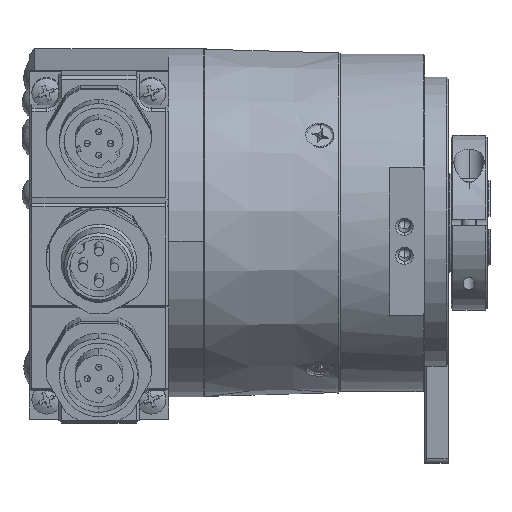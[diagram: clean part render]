
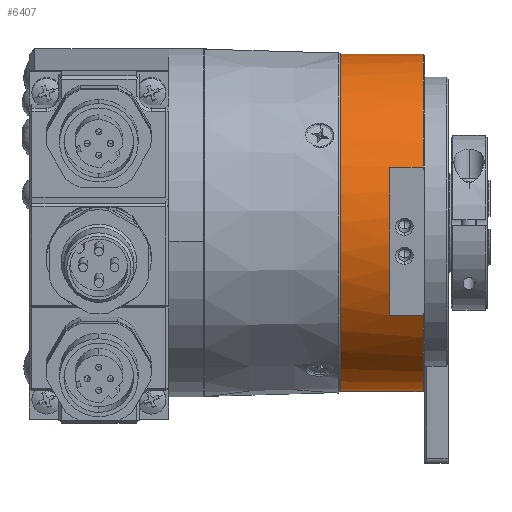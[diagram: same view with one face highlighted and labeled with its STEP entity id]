
A CAD part, front view. The second image highlights one B-rep face of the part: STEP entity #6407.
In plain terms, the highlighted cylindrical face has radius 29 mm (diameter 58 mm), a partial arc.
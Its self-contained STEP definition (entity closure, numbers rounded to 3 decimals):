
#330 = VERTEX_POINT ( 'NONE', #51356 ) ;
#333 = EDGE_CURVE ( 'NONE', #330, #334, #51350, .T. ) ;
#334 = VERTEX_POINT ( 'NONE', #51343 ) ;
#337 = VERTEX_POINT ( 'NONE', #51328 ) ;
#339 = EDGE_CURVE ( 'NONE', #387, #337, #51325, .T. ) ;
#387 = VERTEX_POINT ( 'NONE', #52079 ) ;
#508 = VERTEX_POINT ( 'NONE', #53393 ) ;
#537 = EDGE_CURVE ( 'NONE', #538, #5185, #53538, .T. ) ;
#538 = VERTEX_POINT ( 'NONE', #53534 ) ;
#545 = VERTEX_POINT ( 'NONE', #53879 ) ;
#550 = EDGE_CURVE ( 'NONE', #508, #545, #53958, .T. ) ;
#2179 = CARTESIAN_POINT ( 'NONE',  ( 21.7, -27.372, 9.581 ) ) ;
#2180 = DIRECTION ( 'NONE',  ( 0., 0., 1. ) ) ;
#2181 = DIRECTION ( 'NONE',  ( -1., 0., 0. ) ) ;
#2182 = CARTESIAN_POINT ( 'NONE',  ( 21.7, 0., 0. ) ) ;
#2183 = AXIS2_PLACEMENT_3D ( 'NONE', #2182, #2181, #2180 ) ;
#2184 = CIRCLE ( 'NONE', #2183, 29. ) ;
#5182 = EDGE_CURVE ( 'NONE', #5185, #387, #2184, .T. ) ;
#5185 = VERTEX_POINT ( 'NONE', #2179 ) ;
#6185 = FACE_OUTER_BOUND ( 'NONE', #6410, .T. ) ;
#6187 = DIRECTION ( 'NONE',  ( 0., 0., 1. ) ) ;
#6189 = DIRECTION ( 'NONE',  ( -1., 0., 0. ) ) ;
#6191 = AXIS2_PLACEMENT_3D ( 'NONE', #6204, #6189, #6187 ) ;
#6192 = CIRCLE ( 'NONE', #6191, 29. ) ;
#6204 = CARTESIAN_POINT ( 'NONE',  ( 7.5, 0., 0. ) ) ;
#6274 = DIRECTION ( 'NONE',  ( 0., 0., 1. ) ) ;
#6275 = DIRECTION ( 'NONE',  ( -1., 0., 0. ) ) ;
#6277 = AXIS2_PLACEMENT_3D ( 'NONE', #6284, #6275, #6274 ) ;
#6278 = CYLINDRICAL_SURFACE ( 'NONE', #6277, 29. ) ;
#6284 = CARTESIAN_POINT ( 'NONE',  ( -1.393, 0., 0. ) ) ;
#6405 = EDGE_CURVE ( 'NONE', #334, #337, #6192, .T. ) ;
#6407 = ADVANCED_FACE ( 'NONE', ( #6185 ), #6278, .T. ) ;
#6410 = EDGE_LOOP ( 'NONE', ( #6412, #7901, #6502, #6509, #6512, #6513, #6515, #6517 ) ) ;
#6412 = ORIENTED_EDGE ( 'NONE', *, *, #333, .F. ) ;
#6497 = EDGE_CURVE ( 'NONE', #330, #508, #6624, .T. ) ;
#6502 = ORIENTED_EDGE ( 'NONE', *, *, #550, .T. ) ;
#6509 = ORIENTED_EDGE ( 'NONE', *, *, #6511, .T. ) ;
#6511 = EDGE_CURVE ( 'NONE', #545, #538, #6608, .T. ) ;
#6512 = ORIENTED_EDGE ( 'NONE', *, *, #537, .T. ) ;
#6513 = ORIENTED_EDGE ( 'NONE', *, *, #5182, .T. ) ;
#6515 = ORIENTED_EDGE ( 'NONE', *, *, #339, .T. ) ;
#6517 = ORIENTED_EDGE ( 'NONE', *, *, #6405, .F. ) ;
#6601 = DIRECTION ( 'NONE',  ( 0., -1., 0. ) ) ;
#6603 = DIRECTION ( 'NONE',  ( -1., 0., 0. ) ) ;
#6605 = CARTESIAN_POINT ( 'NONE',  ( 16., 0., 0. ) ) ;
#6606 = AXIS2_PLACEMENT_3D ( 'NONE', #6605, #6603, #6601 ) ;
#6608 = CIRCLE ( 'NONE', #6606, 29. ) ;
#6616 = DIRECTION ( 'NONE',  ( 0., 0., 1. ) ) ;
#6618 = DIRECTION ( 'NONE',  ( -1., 0., 0. ) ) ;
#6620 = CARTESIAN_POINT ( 'NONE',  ( 21.7, 0., 0. ) ) ;
#6622 = AXIS2_PLACEMENT_3D ( 'NONE', #6620, #6618, #6616 ) ;
#6624 = CIRCLE ( 'NONE', #6622, 29. ) ;
#7901 = ORIENTED_EDGE ( 'NONE', *, *, #6497, .T. ) ;
#50193 = DIRECTION ( 'NONE',  ( -1., 0., 0. ) ) ;
#50194 = VECTOR ( 'NONE', #50193, 1000. ) ;
#51324 = CARTESIAN_POINT ( 'NONE',  ( -1.393, 0., 29. ) ) ;
#51325 = LINE ( 'NONE', #51324, #50194 ) ;
#51328 = CARTESIAN_POINT ( 'NONE',  ( 7.5, 0., 29. ) ) ;
#51343 = CARTESIAN_POINT ( 'NONE',  ( 7.5, 0., -29. ) ) ;
#51346 = DIRECTION ( 'NONE',  ( -1., 0., 0. ) ) ;
#51347 = VECTOR ( 'NONE', #51346, 1000. ) ;
#51349 = CARTESIAN_POINT ( 'NONE',  ( -1.393, 0., -29. ) ) ;
#51350 = LINE ( 'NONE', #51349, #51347 ) ;
#51356 = CARTESIAN_POINT ( 'NONE',  ( 21.7, 0., -29. ) ) ;
#52079 = CARTESIAN_POINT ( 'NONE',  ( 21.7, 0., 29. ) ) ;
#53393 = CARTESIAN_POINT ( 'NONE',  ( 21.7, -24.241, -15.918 ) ) ;
#53534 = CARTESIAN_POINT ( 'NONE',  ( 16., -27.372, 9.581 ) ) ;
#53535 = DIRECTION ( 'NONE',  ( 1., 0., 0. ) ) ;
#53536 = VECTOR ( 'NONE', #53535, 1000. ) ;
#53537 = CARTESIAN_POINT ( 'NONE',  ( -1.393, -27.372, 9.581 ) ) ;
#53538 = LINE ( 'NONE', #53537, #53536 ) ;
#53879 = CARTESIAN_POINT ( 'NONE',  ( 16., -24.241, -15.918 ) ) ;
#53945 = DIRECTION ( 'NONE',  ( -1., 0., 0. ) ) ;
#53947 = VECTOR ( 'NONE', #53945, 1000. ) ;
#53948 = CARTESIAN_POINT ( 'NONE',  ( -1.393, -24.241, -15.918 ) ) ;
#53958 = LINE ( 'NONE', #53948, #53947 ) ;
